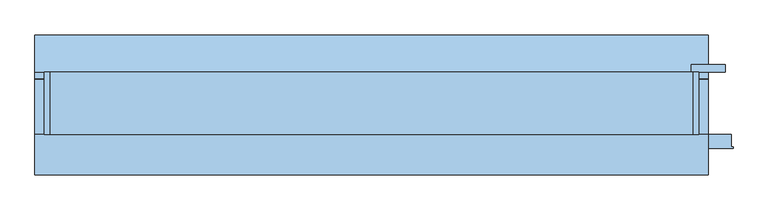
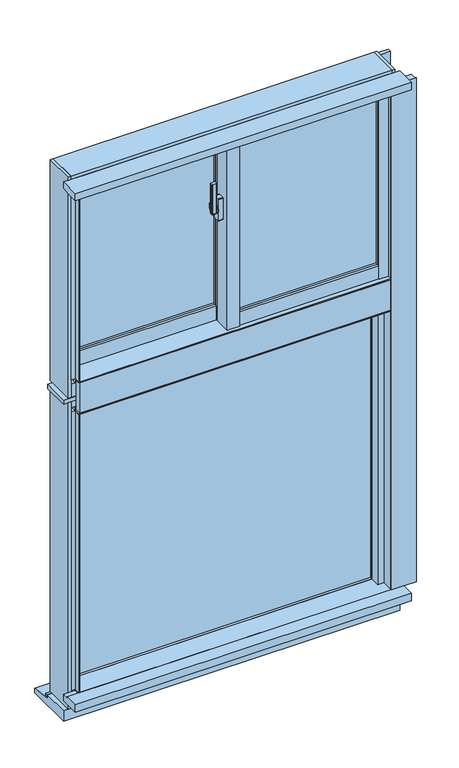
"""IFC4 building model written with IfcOpenShell, lengths in millimetres: window geometry, FNSⅡ100R_非防火_RC枠_段窓_分解無目 : 隠蔽式突出排煙/引違."""

from ifc_helpers import new_model, si_unit, point, frame, frame_2d, origin, place, context, project, spatial, polyline, circle_curve, trimmed, segment, composite_curve, outline, extrude, faceted_brep, source, transform, mapped, element, save
from ifc_brep_helpers import plane_surface, cylinder_surface, revolved_surface, advanced_brep


def window_9f553484(model_context):
    return source(origin(), model_context, "Body", "SolidModel", [
        extrude(outline(composite_curve([segment(polyline([(-39.0, -20.4), (-39.0, -28.6)]), True, "CONTINUOUS"), segment(trimmed(circle_curve(frame_2d((-41.0, -28.6)), 2.0), [point((-39.0, -28.6))], [point((-41.3606557, -30.5672131))], False, "CARTESIAN"), True, "CONTINUOUS"), segment(polyline([(-41.3606557, -30.5672131), (-52.3606557, -28.5505464)]), True, "CONTINUOUS"), segment(trimmed(circle_curve(frame_2d((-52.0, -26.5833333)), 2.0), [point((-52.3606557, -28.5505464))], [point((-54.0, -26.5833333))], False, "CARTESIAN"), True, "CONTINUOUS"), segment(polyline([(-54.0, -26.5833333), (-54.0, -22.4166667)]), True, "CONTINUOUS"), segment(trimmed(circle_curve(frame_2d((-52.0, -22.4166667)), 2.0), [point((-54.0, -22.4166667))], [point((-52.3606557, -20.4494536))], False, "CARTESIAN"), True, "CONTINUOUS"), segment(polyline([(-52.3606557, -20.4494536), (-41.3606557, -18.4327869)]), True, "CONTINUOUS"), segment(trimmed(circle_curve(frame_2d((-41.0, -20.4)), 2.0), [point((-41.3606557, -18.4327869))], [point((-39.0, -20.4))], False, "CARTESIAN"), True, "CONTINUOUS")], self_intersect=False)), frame((0.0, 0.0, 2345.0), z_axis=(0.0, 0.0, 1.0), x_axis=(1.0, 0.0, 0.0)), (0.0, 0.0, 1.0), 100.0),
        advanced_brep(
        [(-37.5, -16.1765715, 2376.7333311), (-45.5, -16.1765715, 2376.7333311), (-45.5, -16.5648001, 2375.2844424), (-39.0, -16.5648001, 2375.2844424), (-39.0, -18.3765334, 2368.5229616), (-37.5, -18.3765334, 2368.5229616), (-39.0, -18.3533883, 2334.3190372), (-45.5, -18.3533883, 2334.3190372), (-45.5, -18.092916, 2332.8418256), (-37.5, -18.092916, 2332.8418256), (-37.5, -19.5689255, 2341.2126915), (-39.0, -19.5689255, 2341.2126915)],
        [
            (0, 1),
            (1, 2),
            (2, 3),
            (3, 4),
            (4, 5),
            (5, 0),
            (6, 7),
            (7, 8),
            (8, 9),
            (9, 10),
            (10, 11),
            (11, 6),
            (0, 9, circle_curve(frame((-37.5, -22.0, 2355.0), z_axis=(-1.0, 0.0, 0.0), x_axis=(0.0, 0.25881904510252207, 0.965925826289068)), 22.5)),
            (8, 1, circle_curve(frame((-45.5, -22.0, 2355.0), z_axis=(1.0, 0.0, 0.0), x_axis=(0.0, 0.25881904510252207, 0.965925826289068)), 22.5)),
            (7, 2, circle_curve(frame((-45.5, -22.0, 2355.0), z_axis=(1.0, 0.0, 0.0), x_axis=(0.0, 0.25881904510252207, 0.965925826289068)), 21.0)),
            (6, 3, circle_curve(frame((-39.0, -22.0, 2355.0), z_axis=(1.0, 0.0, 0.0), x_axis=(0.0, 0.25881904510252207, 0.965925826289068)), 21.0)),
            (11, 4, circle_curve(frame((-39.0, -22.0, 2355.0), z_axis=(-1.0, 0.0, 0.0), x_axis=(0.0, -1.0, 0.0)), 14.0)),
            (5, 10, circle_curve(frame((-37.5, -22.0, 2355.0), z_axis=(1.0, 0.0, 0.0), x_axis=(0.0, -1.0, 0.0)), 14.0)),
        ],
        [
            plane_surface(frame((-43.5470497, -22.0, 2355.0), z_axis=(0.0, -0.965925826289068, 0.25881904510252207), x_axis=(0.0, 0.25881904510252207, 0.965925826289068))),
            plane_surface(frame((-43.5470497, -22.0, 2355.0), z_axis=(0.0, -0.9848077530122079, -0.17364817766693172), x_axis=(0.0, 0.17364817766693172, -0.9848077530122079))),
            cylinder_surface(frame((-43.5470497, -22.0, 2355.0), z_axis=(-1.0, 0.0, 0.0), x_axis=(0.0, 0.25881904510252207, 0.965925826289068)), 22.5),
            plane_surface(frame((-45.5, -22.0, 2355.0), z_axis=(-1.0, 0.0, 0.0), x_axis=(0.0, 0.25881904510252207, 0.965925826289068))),
            revolved_surface(polyline([(-45.5, -16.564800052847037, 2375.2844423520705), (-39.0, -16.564800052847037, 2375.2844423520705)]), (-43.5470497, -22.0, 2355.0), (-1.0, 0.0, 0.0)),
            plane_surface(frame((-39.0, -22.0, 2355.0), z_axis=(-1.0, 0.0, 0.0), x_axis=(0.0, 0.25881904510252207, 0.965925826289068))),
            plane_surface(frame((-37.5, -22.0, 2355.0), z_axis=(1.0, 0.0, 0.0), x_axis=(0.0, 0.25881904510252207, 0.965925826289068))),
            cylinder_surface(frame((-37.5, -22.0, 2355.0), z_axis=(-1.0, 0.0, 0.0), x_axis=(0.0, -1.0, 0.0)), 14.0),
        ],
        [
            (0, [[1, 2, 3, 4, 5, 6]]),
            (1, [[7, 8, 9, 10, 11, 12]]),
            (2, [[-1, 13, -9, 14]]),
            (3, [[-2, -14, -8, 15]]),
            (4, [[-3, -15, -7, 16]]),
            (5, [[-16, -12, 17, -4]]),
            (6, [[-13, -6, 18, -10]]),
            (7, [[-17, -11, -18, -5]]),
        ],
    ),
        extrude(outline(composite_curve([segment(trimmed(circle_curve(frame_2d((-22.0, 2355.0)), 11.5), [point((-10.5, 2355.0))], [point((-33.5, 2355.0))], False, "CARTESIAN"), True, "CONTINUOUS"), segment(trimmed(circle_curve(frame_2d((-22.0, 2355.0)), 11.5), [point((-33.5, 2355.0))], [point((-10.5, 2355.0))], False, "CARTESIAN"), True, "CONTINUOUS")], self_intersect=False)), frame((-37.5, 0.0, 0.0), z_axis=(1.0, 0.0, 0.0), x_axis=(0.0, 1.0, 0.0)), (0.0, 0.0, 1.0), 2.5),
        extrude(outline(composite_curve([segment(polyline([(-31.0, 2392.5), (-13.0, 2392.5)]), True, "CONTINUOUS"), segment(trimmed(circle_curve(frame_2d((-13.0, 2390.5)), 2.0), [point((-13.0, 2392.5))], [point((-11.0, 2390.5))], False, "CARTESIAN"), True, "CONTINUOUS"), segment(polyline([(-11.0, 2390.5), (-11.0, 2319.5)]), True, "CONTINUOUS"), segment(trimmed(circle_curve(frame_2d((-13.0, 2319.5)), 2.0), [point((-11.0, 2319.5))], [point((-13.0, 2317.5))], False, "CARTESIAN"), True, "CONTINUOUS"), segment(polyline([(-13.0, 2317.5), (-31.0, 2317.5)]), True, "CONTINUOUS"), segment(trimmed(circle_curve(frame_2d((-31.0, 2319.5)), 2.0), [point((-31.0, 2317.5))], [point((-33.0, 2319.5))], False, "CARTESIAN"), True, "CONTINUOUS"), segment(polyline([(-33.0, 2319.5), (-33.0, 2390.5)]), True, "CONTINUOUS"), segment(trimmed(circle_curve(frame_2d((-31.0, 2390.5)), 2.0), [point((-33.0, 2390.5))], [point((-31.0, 2392.5))], False, "CARTESIAN"), True, "CONTINUOUS")], self_intersect=False)), frame((-35.0, 0.0, 0.0), z_axis=(1.0, 0.0, 0.0), x_axis=(0.0, 1.0, 0.0)), (0.0, 0.0, 1.0), 15.0),
        extrude(outline(polyline([(20.0, -31.0), (468.0, -31.0), (468.0, -37.0), (20.0, -37.0), (20.0, -31.0)])), frame((0.0, 0.0, 2003.0), z_axis=(0.0, 0.0, 1.0), x_axis=(1.0, 0.0, 0.0)), (0.0, 0.0, 1.0), 567.0),
        extrude(outline(polyline([(20.0, -13.0), (468.0, -13.0), (468.0, -19.0), (20.0, -19.0), (20.0, -13.0)])), frame((0.0, 0.0, 2003.0), z_axis=(0.0, 0.0, 1.0), x_axis=(1.0, 0.0, 0.0)), (0.0, 0.0, 1.0), 567.0),
        extrude(outline(polyline([(-468.0, 27.0), (-20.0, 27.0), (-20.0, 21.0), (-468.0, 21.0), (-468.0, 27.0)])), frame((0.0, 0.0, 2003.0), z_axis=(0.0, 0.0, 1.0), x_axis=(1.0, 0.0, 0.0)), (0.0, 0.0, 1.0), 567.0),
        extrude(outline(polyline([(-468.0, 45.0), (-20.0, 45.0), (-20.0, 39.0), (-468.0, 39.0), (-468.0, 45.0)])), frame((0.0, 0.0, 2003.0), z_axis=(0.0, 0.0, 1.0), x_axis=(1.0, 0.0, 0.0)), (0.0, 0.0, 1.0), 567.0),
        faceted_brep([(-489.5, 24.0, 2610.0), (-500.0, 24.0, 2610.0), (-500.0, 24.0, 1915.0), (-468.0, 24.0, 1915.0), (-468.0, 24.0, 1955.0), (-489.5, 24.0, 1955.0), (-489.5, 11.0, 2610.0), (-489.5, 11.0, 1955.0), (-468.0, 53.0, 2610.0), (-468.0, 11.0, 2610.0), (-468.0, 11.0, 1955.0), (-468.0, 53.0, 1915.0), (-500.0, 53.0, 2610.0), (-500.0, 53.0, 1915.0)], [[[0, 1, 2, 3, 4, 5]], [[6, 0, 5, 7]], [[8, 9, 10, 4, 3, 11]], [[1, 0, 6, 9, 8, 12]], [[3, 2, 13, 11]], [[9, 6, 7, 10]], [[12, 8, 11, 13]], [[2, 1, 12, 13]], [[5, 4, 10, 7]]]),
        faceted_brep([(-20.0, 10.5, 2610.0), (-1.8, 10.5, 2610.0), (-1.8, -1.9, 2610.0), (20.0, -1.9, 2610.0), (20.0, 53.0, 2610.0), (-20.0, 53.0, 2610.0), (-20.0, 53.0, 1915.0), (20.0, 53.0, 1915.0), (20.0, 24.0, 1915.0), (-20.0, 24.0, 1915.0), (-20.0, 10.5, 1955.0), (-1.8, 10.5, 1955.0), (-1.8, -1.9, 1955.0), (20.0, -1.9, 1955.0), (20.0, 24.0, 1955.0), (-20.0, 24.0, 1955.0)], [[[0, 1, 2, 3, 4, 5]], [[6, 7, 8, 9]], [[1, 0, 10, 11]], [[2, 1, 11, 12]], [[3, 2, 12, 13]], [[4, 3, 13, 14, 8, 7]], [[5, 4, 7, 6]], [[0, 5, 6, 9, 15, 10]], [[14, 15, 9, 8]], [[15, 14, 13, 12, 11, 10]]]),
        extrude(outline(polyline([(-20.0, -1.9), (-15.0, -1.9), (-15.0, -47.0), (15.0, -47.0), (15.0, -43.0), (20.0, -43.0), (20.0, -55.0), (-20.0, -55.0), (-20.0, -1.9)])), frame((0.0, 0.0, 1955.0), z_axis=(0.0, 0.0, 1.0), x_axis=(1.0, 0.0, 0.0)), (0.0, 0.0, 1.0), 655.0),
        extrude(outline(polyline([(-15.0, -1.9), (20.0, -1.9), (20.0, -43.0), (15.0, -43.0), (15.0, -47.0), (-15.0, -47.0), (-15.0, -1.9)])), frame((0.0, 0.0, 1955.0), z_axis=(0.0, 0.0, 1.0), x_axis=(1.0, 0.0, 0.0)), (0.0, 0.0, 1.0), 655.0),
        extrude(outline(polyline([(468.0, -55.0), (468.0, -47.0), (489.5, -47.0), (489.5, -34.0), (497.0, -34.0), (497.0, -55.0), (468.0, -55.0)])), frame((0.0, 0.0, 1958.0), z_axis=(0.0, 0.0, 1.0), x_axis=(1.0, 0.0, 0.0)), (0.0, 0.0, 1.0), 652.0),
        extrude(outline(polyline([(468.0, -5.0), (500.0, -5.0), (500.0, -34.0), (489.5, -34.0), (489.5, -47.0), (468.0, -47.0), (468.0, -5.0)])), frame((0.0, 0.0, 1955.0), z_axis=(0.0, 0.0, 1.0), x_axis=(1.0, 0.0, 0.0)), (0.0, 0.0, 1.0), 655.0),
        extrude(outline(polyline([(-1.85, 10.5), (-1.85, 3.0), (-20.0, 3.0), (-20.0, 10.5), (-1.85, 10.5)])), frame((0.0, 0.0, 1955.0), z_axis=(0.0, 0.0, 1.0), x_axis=(1.0, 0.0, 0.0)), (0.0, 0.0, 1.0), 655.0),
        extrude(outline(polyline([(-497.0, 24.0), (-489.5, 24.0), (-489.5, 11.0), (-468.0, 11.0), (-468.0, 3.0), (-497.0, 3.0), (-497.0, 24.0)])), frame((0.0, 0.0, 1955.0), z_axis=(0.0, 0.0, 1.0), x_axis=(1.0, 0.0, 0.0)), (0.0, 0.0, 1.0), 655.0),
        extrude(outline(polyline([(-53.0, 1958.0), (-53.0, 2003.0), (-45.0, 2003.0), (-45.0, 1980.5), (-34.0, 1980.5), (-34.0, 1958.0), (-53.0, 1958.0)])), frame((20.0, 0.0, 0.0), z_axis=(1.0, 0.0, 0.0), x_axis=(0.0, 1.0, 0.0)), (0.0, 0.0, 1.0), 448.0),
        extrude(outline(polyline([(-5.0, 1955.0), (-34.0, 1955.0), (-34.0, 1980.5), (-45.0, 1980.5), (-45.0, 2003.0), (-5.0, 2003.0), (-5.0, 1955.0)])), frame((20.0, 0.0, 0.0), z_axis=(1.0, 0.0, 0.0), x_axis=(0.0, 1.0, 0.0)), (0.0, 0.0, 1.0), 448.0),
        extrude(outline(polyline([(5.0, 2003.0), (13.0, 2003.0), (13.0, 1980.5), (24.0, 1980.5), (24.0, 1955.0), (5.0, 1955.0), (5.0, 2003.0)])), frame((-468.0, 0.0, 0.0), z_axis=(1.0, 0.0, 0.0), x_axis=(0.0, 1.0, 0.0)), (0.0, 0.0, 1.0), 448.0),
        extrude(outline(polyline([(53.0, 1915.0), (24.0, 1915.0), (24.0, 1980.5), (13.0, 1980.5), (13.0, 2003.0), (53.0, 2003.0), (53.0, 1915.0)])), frame((-468.0, 0.0, 0.0), z_axis=(1.0, 0.0, 0.0), x_axis=(0.0, 1.0, 0.0)), (0.0, 0.0, 1.0), 448.0),
        extrude(outline(polyline([(-32.0, 2590.5), (-45.0, 2590.5), (-45.0, 2570.0), (-53.0, 2570.0), (-53.0, 2610.0), (-32.0, 2610.0), (-32.0, 2590.5)])), frame((20.0, 0.0, 0.0), z_axis=(1.0, 0.0, 0.0), x_axis=(0.0, 1.0, 0.0)), (0.0, 0.0, 1.0), 448.0),
        extrude(outline(polyline([(-5.0, 2610.0), (-5.0, 2570.0), (-45.0, 2570.0), (-45.0, 2590.5), (-32.0, 2590.5), (-32.0, 2610.0), (-5.0, 2610.0)])), frame((20.0, 0.0, 0.0), z_axis=(1.0, 0.0, 0.0), x_axis=(0.0, 1.0, 0.0)), (0.0, 0.0, 1.0), 448.0),
        extrude(outline(polyline([(26.0, 2590.5), (13.0, 2590.5), (13.0, 2570.0), (5.0, 2570.0), (5.0, 2610.0), (26.0, 2610.0), (26.0, 2590.5)])), frame((-468.0, 0.0, 0.0), z_axis=(1.0, 0.0, 0.0), x_axis=(0.0, 1.0, 0.0)), (0.0, 0.0, 1.0), 448.0),
        extrude(outline(polyline([(53.0, 2610.0), (53.0, 2570.0), (13.0, 2570.0), (13.0, 2590.5), (26.0, 2590.5), (26.0, 2610.0), (53.0, 2610.0)])), frame((-468.0, 0.0, 0.0), z_axis=(1.0, 0.0, 0.0), x_axis=(0.0, 1.0, 0.0)), (0.0, 0.0, 1.0), 448.0),
        extrude(outline(polyline([(-15.0, 25.3), (-15.0, -23.1), (-500.0, -23.1), (-500.0, 25.3), (-15.0, 25.3)])), frame((0.0, 0.0, 2610.0), z_axis=(0.0, 0.0, 1.0), x_axis=(1.0, 0.0, 0.0)), (0.0, 0.0, 1.0), 25.0),
        faceted_brep([(515.0, -45.0, 2635.0), (515.0, -45.0, 2645.0), (-515.0, -45.0, 2645.0), (-515.0, -45.0, 2635.0), (-515.0, 55.0, 2610.0), (-515.0, 25.3, 2610.0), (-515.0, 25.3, 2635.0), (-515.0, 55.0, 2645.0), (515.0, 25.3, 2635.0), (-15.0, 25.3, 2635.0), (-15.0, -23.1, 2635.0), (500.0, -23.1, 2635.0), (500.0, 25.3, 2635.0), (-15.0, 25.3, 2610.0), (515.0, 25.3, 2610.0), (500.0, 25.3, 2610.0), (515.0, 55.0, 2610.0), (500.0, -23.1, 2610.0), (-15.0, -23.1, 2610.0), (515.0, 55.0, 2645.0)], [[[0, 1, 2, 3]], [[4, 5, 6, 3, 2, 7]], [[8, 0, 3, 6, 9, 10, 11, 12]], [[6, 5, 13, 9]], [[14, 8, 12, 15]], [[16, 14, 15, 17, 18, 13, 5, 4]], [[19, 16, 4, 7]], [[1, 19, 7, 2]], [[16, 19, 1, 0, 8, 14]], [[11, 17, 15, 12]], [[13, 18, 10, 9]], [[17, 11, 10, 18]]]),
        extrude(outline(polyline([(-23.1, 2610.0), (-65.0, 2610.0), (-65.0, 2613.0), (-45.0, 2613.0), (-45.0, 2635.0), (-23.1, 2635.0), (-23.1, 2610.0)])), frame((-500.0, 0.0, 0.0), z_axis=(1.0, 0.0, 0.0), x_axis=(0.0, 1.0, 0.0)), (0.0, 0.0, 1.0), 1000.0),
        faceted_brep([(500.0, -45.0, 2630.0), (515.0, -45.0, 2630.0), (515.0, -40.5, 2630.0), (500.0, -40.5, 2630.0), (500.0, -65.0, 1955.0), (503.0, -65.0, 1955.0), (503.0, -65.0, 2613.0), (500.0, -65.0, 2613.0), (515.0, -40.5, 1955.0), (500.0, -40.5, 1955.0), (500.0, -45.0, 2613.0), (503.0, -45.0, 2613.0), (515.0, -45.0, 1955.0), (503.0, -45.0, 1955.0)], [[[0, 1, 2, 3]], [[4, 5, 6, 7]], [[3, 2, 8, 9]], [[9, 4, 7, 10, 0, 3]], [[11, 10, 7, 6]], [[4, 9, 8, 12, 13, 5]], [[5, 13, 11, 6]], [[0, 10, 11, 13, 12, 1]], [[2, 1, 12, 8]]]),
        faceted_brep([(-515.0, -45.0, 1955.0), (-503.0, -45.0, 1955.0), (-503.0, -45.0, 2613.0), (-500.0, -45.0, 2613.0), (-500.0, -45.0, 2630.0), (-515.0, -45.0, 2630.0), (-503.0, -65.0, 2613.0), (-500.0, -65.0, 2613.0), (-515.0, 21.0, 2630.0), (-500.0, 21.0, 2630.0), (-500.0, 21.0, 1955.0), (-515.0, 21.0, 1955.0), (-500.0, -65.0, 1955.0), (-503.0, -65.0, 1955.0)], [[[0, 1, 2, 3, 4, 5]], [[3, 2, 6, 7]], [[8, 9, 10, 11]], [[5, 4, 9, 8]], [[0, 11, 10, 12, 13, 1]], [[1, 13, 6, 2]], [[13, 12, 7, 6]], [[12, 10, 9, 4, 3, 7]], [[0, 5, 8, 11]]]),
        faceted_brep([(515.0, -40.5, 2610.0), (500.0, -40.5, 2610.0), (500.0, -40.5, 1904.0), (515.0, -40.5, 1904.0), (515.0, 55.0, 2645.0), (525.0, 55.0, 2645.0), (525.0, 55.0, 1895.0), (515.0, 55.0, 1895.0), (515.0, 55.0, 1904.0), (500.0, 55.0, 1904.0), (500.0, 55.0, 2610.0), (515.0, 55.0, 2610.0), (515.0, -45.0, 2645.0), (515.0, -45.0, 1895.0), (525.0, -45.0, 2645.0), (525.0, -45.0, 1895.0)], [[[0, 1, 2, 3]], [[4, 5, 6, 7, 8, 9, 10, 11]], [[12, 4, 11, 0, 3, 8, 7, 13]], [[12, 14, 5, 4]], [[13, 7, 6, 15]], [[2, 9, 8, 3]], [[1, 10, 9, 2]], [[1, 0, 11, 10]], [[14, 12, 13, 15]], [[5, 14, 15, 6]]]),
        faceted_brep([(-500.0, 21.0, 2610.0), (-515.0, 21.0, 2610.0), (-515.0, 21.0, 1904.0), (-500.0, 21.0, 1904.0), (-525.0, 55.0, 2645.0), (-525.0, -45.0, 2645.0), (-515.0, -45.0, 2645.0), (-515.0, 55.0, 2645.0), (-525.0, 55.0, 1895.0), (-515.0, 55.0, 1895.0), (-515.0, -45.0, 1895.0), (-525.0, -45.0, 1895.0), (-500.0, 55.0, 1904.0), (-515.0, 55.0, 1904.0), (-515.0, 55.0, 2610.0), (-500.0, 55.0, 2610.0)], [[[0, 1, 2, 3]], [[4, 5, 6, 7]], [[8, 9, 10, 11]], [[6, 5, 11, 10]], [[12, 3, 2, 13]], [[5, 4, 8, 11]], [[7, 6, 10, 9, 13, 2, 1, 14]], [[4, 7, 14, 15, 12, 13, 9, 8]], [[15, 14, 1, 0]], [[15, 0, 3, 12]]]),
        faceted_brep([(515.0, 21.0, 1939.0), (515.0, 21.0, 1904.0), (-515.0, 21.0, 1904.0), (-515.0, 21.0, 1939.0), (515.0, 55.0, 1904.0), (-515.0, 55.0, 1904.0), (515.0, 55.0, 1895.0), (515.0, -45.0, 1895.0), (-515.0, -45.0, 1895.0), (-515.0, 55.0, 1895.0), (515.0, -45.0, 1939.0), (-515.0, -45.0, 1939.0), (500.0, -17.75, 1939.0), (500.0, -36.2, 1939.0), (-15.0, -36.2, 1939.0), (-15.0, -17.75, 1939.0), (500.0, -36.2, 1955.0), (500.0, -17.75, 1955.0), (-15.0, -36.2, 1955.0), (-15.0, -17.75, 1955.0)], [[[0, 1, 2, 3]], [[1, 4, 5, 2]], [[6, 7, 8, 9]], [[10, 0, 3, 11], [12, 13, 14, 15]], [[6, 4, 1, 0, 10, 7]], [[9, 8, 11, 3, 2, 5]], [[7, 10, 11, 8]], [[4, 6, 9, 5]], [[16, 13, 12, 17]], [[18, 19, 15, 14]], [[13, 16, 18, 14]], [[17, 12, 15, 19]], [[16, 17, 19, 18]]]),
        faceted_brep([(503.0, -65.0, 1955.0), (503.0, -65.0, 1952.0), (503.0, -45.0, 1952.0), (503.0, -45.0, 1939.0), (503.0, -40.5, 1939.0), (503.0, -40.5, 1955.0), (-503.0, -45.0, 1939.0), (-503.0, -45.0, 1952.0), (-503.0, -65.0, 1952.0), (-503.0, -65.0, 1955.0), (-503.0, -36.2, 1955.0), (-503.0, -36.2, 1939.0), (500.0, -40.5, 1955.0), (500.0, -36.2, 1955.0), (-15.0, -36.2, 1955.0), (-15.0, 21.0, 1955.0), (-500.0, 21.0, 1955.0), (-500.0, -36.2, 1955.0), (-500.0, -36.2, 1939.0), (-500.0, 21.0, 1939.0), (-15.0, 21.0, 1939.0), (-15.0, -36.2, 1939.0), (500.0, -36.2, 1939.0), (500.0, -40.5, 1939.0)], [[[0, 1, 2, 3, 4, 5]], [[6, 7, 8, 9, 10, 11]], [[3, 2, 7, 6]], [[2, 1, 8, 7]], [[1, 0, 9, 8]], [[10, 9, 0, 5, 12, 13, 14, 15, 16, 17]], [[6, 11, 18, 19, 20, 21, 22, 23, 4, 3]], [[13, 22, 21, 14]], [[11, 10, 17, 18]], [[12, 23, 22, 13]], [[23, 12, 5, 4]], [[15, 14, 21, 20]], [[16, 19, 18, 17]], [[15, 20, 19, 16]]]),
        extrude(outline(polyline([(-480.0, 20.6), (480.0, 20.6), (480.0, 14.6), (-480.0, 14.6), (-480.0, 20.6)])), frame((0.0, 0.0, 900.0), z_axis=(0.0, 0.0, 1.0), x_axis=(1.0, 0.0, 0.0)), (0.0, 0.0, 1.0), 925.0),
        extrude(outline(polyline([(-480.0, 38.6), (480.0, 38.6), (480.0, 32.6), (-480.0, 32.6), (-480.0, 38.6)])), frame((0.0, 0.0, 900.0), z_axis=(0.0, 0.0, 1.0), x_axis=(1.0, 0.0, 0.0)), (0.0, 0.0, 1.0), 925.0),
        faceted_brep([(-480.0, 5.0, 1825.0), (-515.0, 5.0, 1825.0), (-515.0, 5.0, 900.0), (-480.0, 5.0, 900.0), (-480.0, 55.0, 1825.0), (-480.0, 55.0, 900.0), (-515.0, 55.0, 1880.0), (-515.0, -45.0, 1880.0), (-515.0, -45.0, 840.0), (-515.0, 55.0, 840.0), (-515.0, 55.0, 900.0), (-515.0, 55.0, 1825.0), (-525.0, 55.0, 1880.0), (-525.0, -45.0, 1880.0), (-525.0, 55.0, 840.0), (-525.0, -45.0, 840.0)], [[[0, 1, 2, 3]], [[4, 0, 3, 5]], [[6, 7, 8, 9, 10, 2, 1, 11]], [[5, 3, 2, 10]], [[12, 13, 7, 6]], [[14, 9, 8, 15]], [[13, 12, 14, 15]], [[7, 13, 15, 8]], [[12, 6, 11, 4, 5, 10, 9, 14]], [[4, 11, 1, 0]]]),
        faceted_brep([(480.0, 5.0, 1825.0), (480.0, 55.0, 1825.0), (480.0, 55.0, 900.0), (480.0, 5.0, 900.0), (515.0, 5.0, 1825.0), (515.0, 5.0, 900.0), (525.0, -45.0, 1880.0), (515.0, -45.0, 1880.0), (515.0, -45.0, 840.0), (525.0, -45.0, 840.0), (525.0, 55.0, 1880.0), (525.0, 55.0, 840.0), (515.0, 55.0, 900.0), (515.0, 55.0, 1880.0), (515.0, 55.0, 840.0), (515.0, 55.0, 1825.0)], [[[0, 1, 2, 3]], [[4, 0, 3, 5]], [[6, 7, 8, 9]], [[10, 6, 9, 11]], [[5, 3, 2, 12]], [[10, 13, 7, 6]], [[11, 9, 8, 14]], [[13, 10, 11, 14, 12, 2, 1, 15]], [[7, 13, 15, 4, 5, 12, 14, 8]], [[15, 1, 0, 4]]]),
        extrude(outline(polyline([(500.0, -65.0), (500.0, -26.5), (480.0, -26.5), (480.0, 5.0), (515.0, 5.0), (515.0, -45.0), (503.0, -45.0), (503.0, -65.0), (500.0, -65.0)])), frame((0.0, 0.0, 900.0), z_axis=(0.0, 0.0, 1.0), x_axis=(1.0, 0.0, 0.0)), (0.0, 0.0, 1.0), 945.0),
        extrude(outline(polyline([(-515.0, -45.0), (-515.0, 5.0), (-480.0, 5.0), (-480.0, -26.5), (-500.0, -26.5), (-500.0, -65.0), (-503.0, -65.0), (-503.0, -45.0), (-515.0, -45.0)])), frame((0.0, 0.0, 900.0), z_axis=(0.0, 0.0, 1.0), x_axis=(1.0, 0.0, 0.0)), (0.0, 0.0, 1.0), 945.0),
        extrude(outline(polyline([(-45.0, 884.0), (-45.0, 897.0), (-65.0, 897.0), (-65.0, 900.0), (5.0, 900.0), (5.0, 884.0), (-45.0, 884.0)])), frame((-503.0, 0.0, 0.0), z_axis=(1.0, 0.0, 0.0), x_axis=(0.0, 1.0, 0.0)), (0.0, 0.0, 1.0), 1006.0),
        extrude(outline(polyline([(55.0, 840.0), (-45.0, 840.0), (-45.0, 884.0), (5.0, 884.0), (5.0, 900.0), (55.0, 900.0), (55.0, 870.0), (36.0, 870.0), (36.0, 850.0), (55.0, 850.0), (55.0, 840.0)])), frame((-515.0, 0.0, 0.0), z_axis=(1.0, 0.0, 0.0), x_axis=(0.0, 1.0, 0.0)), (0.0, 0.0, 1.0), 1030.0),
        extrude(outline(polyline([(5.0, 1822.0), (-29.0, 1822.0), (-29.0, 1845.0), (-65.0, 1845.0), (-65.0, 1848.0), (-45.0, 1848.0), (-45.0, 1860.0), (5.0, 1860.0), (5.0, 1822.0)])), frame((-503.0, 0.0, 0.0), z_axis=(1.0, 0.0, 0.0), x_axis=(0.0, 1.0, 0.0)), (0.0, 0.0, 1.0), 1006.0),
        extrude(outline(polyline([(55.0, 1825.0), (5.0, 1825.0), (5.0, 1860.0), (-45.0, 1860.0), (-45.0, 1880.0), (55.0, 1880.0), (55.0, 1825.0)])), frame((-515.0, 0.0, 0.0), z_axis=(1.0, 0.0, 0.0), x_axis=(0.0, 1.0, 0.0)), (0.0, 0.0, 1.0), 1030.0),
        extrude(outline(polyline([(-110.0, 900.0), (-65.0, 900.0), (-65.0, 897.0), (-45.0, 897.0), (-45.0, 875.0), (-110.0, 875.0), (-110.0, 900.0)])), frame((-540.0, 0.0, 0.0), z_axis=(1.0, 0.0, 0.0), x_axis=(0.0, 1.0, 0.0)), (0.0, 0.0, 1.0), 1080.0),
        extrude(outline(polyline([(45.0, 840.0), (55.0, 840.0), (55.0, 828.4285714), (45.0, 830.0), (45.0, 840.0)])), frame((-540.0, 0.0, 0.0), z_axis=(1.0, 0.0, 0.0), x_axis=(0.0, 1.0, 0.0)), (0.0, 0.0, 1.0), 1080.0),
        extrude(outline(polyline([(-45.0, 804.0), (-45.0, 840.0), (45.0, 840.0), (45.0, 830.0), (115.0, 819.0), (115.0, 804.0), (-45.0, 804.0)])), frame((-540.0, 0.0, 0.0), z_axis=(1.0, 0.0, 0.0), x_axis=(0.0, 1.0, 0.0)), (0.0, 0.0, 1.0), 1080.0),
        extrude(outline(polyline([(503.0, -65.0), (503.0, -45.0), (577.0, -45.0), (577.0, -65.0), (580.0, -65.0), (580.0, -67.5), (500.0, -67.5), (500.0, -65.0), (503.0, -65.0)])), frame((0.0, 0.0, 900.0), z_axis=(0.0, 0.0, 1.0), x_axis=(1.0, 0.0, 0.0)), (0.0, 0.0, 1.0), 1710.0),
        extrude(outline(polyline([(567.5, 55.0), (512.5, 55.0), (512.5, 67.0), (567.5, 67.0), (567.5, 55.0)])), frame((0.0, 0.0, 840.0), z_axis=(0.0, 0.0, 1.0), x_axis=(1.0, 0.0, 0.0)), (0.0, 0.0, 1.0), 1790.0),
        extrude(outline(polyline([(-110.0, 2635.0), (-45.0, 2635.0), (-45.0, 2613.0), (-65.0, 2613.0), (-65.0, 2610.0), (-110.0, 2610.0), (-110.0, 2635.0)])), frame((-540.0, 0.0, 0.0), z_axis=(1.0, 0.0, 0.0), x_axis=(0.0, 1.0, 0.0)), (0.0, 0.0, 1.0), 1080.0),
        extrude(outline(polyline([(-500.0, -65.0), (-500.0, -45.0), (500.0, -45.0), (500.0, -65.0), (-500.0, -65.0)])), frame((0.0, 0.0, 1848.0), z_axis=(0.0, 0.0, 1.0), x_axis=(1.0, 0.0, 0.0)), (0.0, 0.0, 1.0), 104.0),
        extrude(outline(polyline([(-540.0, -45.0), (-540.0, 43.0), (540.0, 43.0), (540.0, -45.0), (-540.0, -45.0)])), frame((0.0, 0.0, 1880.0), z_axis=(0.0, 0.0, 1.0), x_axis=(1.0, 0.0, 0.0)), (0.0, 0.0, 1.0), 15.0),
    ])


if __name__ == "__main__":
    model = new_model("IFC4")
    model_context = context("Model", 3, world=origin())
    ifc_project = project(units=[si_unit("LENGTHUNIT", "METRE", prefix="MILLI")], contexts=[model_context])
    site = spatial("IfcSite", under=ifc_project)
    building = spatial("IfcBuilding", under=site)
    placement = place(None, origin())
    window_shape = window_9f553484(model_context)
    element("IfcWindow", 1, ObjectType="FNSⅡ100R_非防火_RC枠_段窓_分解無目 : 隠蔽式突出排煙/引違", at=placement, inside=building, context=model_context, shape_type="MappedRepresentation", body=[
        mapped(window_shape, transform((0.0, 0.0, 0.0), x_axis=(1.0, 0.0, 0.0), y_axis=(0.0, 1.0, 0.0), z_axis=(0.0, 0.0, 1.0))),
    ])
    save(model, "model.ifc")
